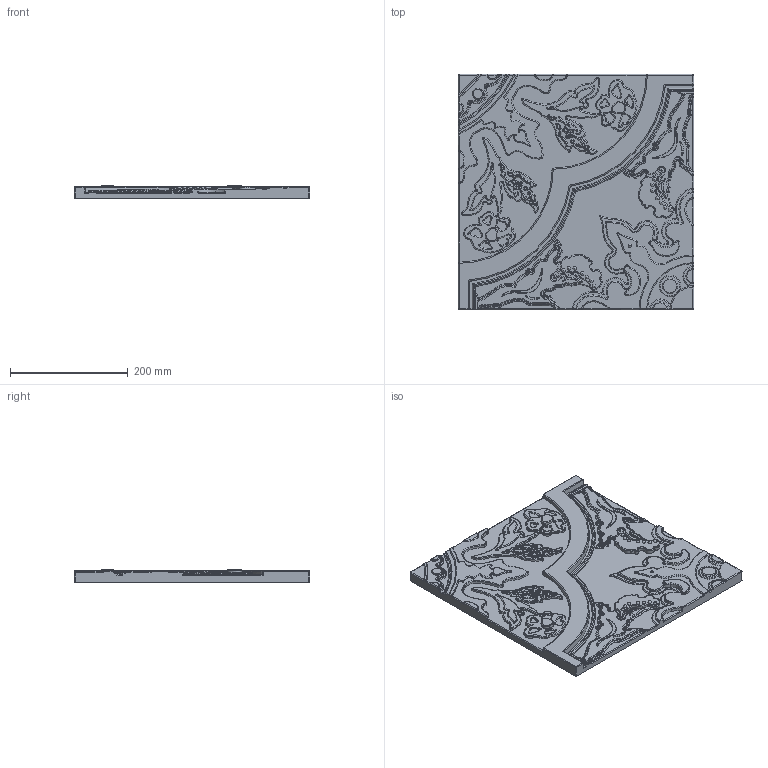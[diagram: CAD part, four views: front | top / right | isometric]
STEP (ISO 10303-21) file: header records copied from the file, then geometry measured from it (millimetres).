
FILE_DESCRIPTION (( 'STEP AP214' ), '1' );
FILE_NAME ('Marrakesh_40x40_STEP.STEP', '2022-06-02T13:12:03', ( '' ), ( '' ), 'SwSTEP 2.0', 'SolidWorks 2020', '' );
FILE_SCHEMA (( 'AUTOMOTIVE_DESIGN' ));
Products named in the file (1): Marrakesh_40x40_STEP
Bounding box: 400 x 400 x 22 mm (x, y, z)
Volume: 2418159.8 mm3; surface area: 379828.6 mm2
Topology: 1 solids, 1 shells, 1261 faces, 3132 edges, 1830 vertices
Faces by surface type: bspline 656, cylinder 188, torus 155, plane 101, cone 81, sphere 80
Entity records: 204307 total; most frequent: CARTESIAN_POINT 179738, ORIENTED_EDGE 6024, DIRECTION 3810, EDGE_CURVE 3012, VERTEX_POINT 1802, AXIS2_PLACEMENT_3D 1650, B_SPLINE_CURVE_WITH_KNOTS 1417, EDGE_LOOP 1310
